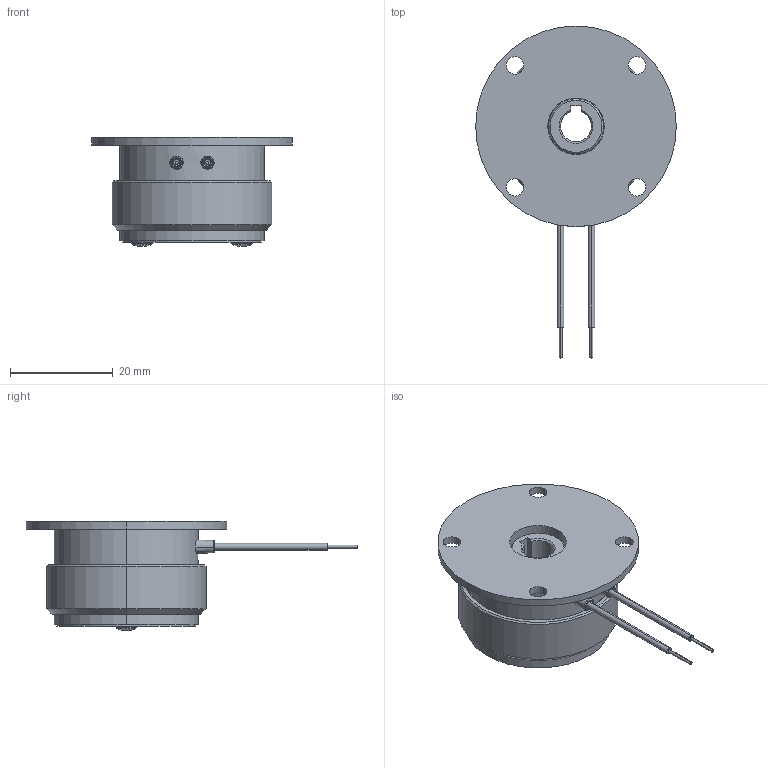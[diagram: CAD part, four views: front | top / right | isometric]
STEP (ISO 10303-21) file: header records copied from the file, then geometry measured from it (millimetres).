
FILE_DESCRIPTION (( 'STEP AP214' ), '1' );
FILE_NAME ('dr_bk_0103-110_mu.STEP', '2021-12-01T08:39:27', ( '' ), ( '' ), 'SwSTEP 2.0', 'SolidWorks 2019', '' );
FILE_SCHEMA (( 'AUTOMOTIVE_DESIGN' ));
Length unit declared in the file: millimetre
Products named in the file (8): 10068718_000_Einbaul„nge 1,35mm; 10068722_000; 10068720_000; 10069125_000; 10068721_000; dr_bk_0103-110_mu; 10069103_000; 10068719_000
Assembly tree (9 placements, depth 3):
  dr_bk_0103-110_mu
    10069103_000
    10069125_000
    10068719_000
      10068720_000
      10068721_000
      10068718_000_Einbaul„nge 1,35mm  x2
      10068722_000  x2
Bounding box: 39 x 64.5 x 21.2 mm (x, y, z)
Volume: 13268.8 mm3; surface area: 10199.9 mm2
Topology: 10 solids, 10 shells, 173 faces, 382 edges, 236 vertices
Faces by surface type: cylinder 87, cone 42, plane 28, torus 12, sphere 4
Entity records: 5667 total; most frequent: CARTESIAN_POINT 839, DIRECTION 834, ORIENTED_EDGE 652, AXIS2_PLACEMENT_3D 359, EDGE_CURVE 326, VERTEX_POINT 204, CIRCLE 198, EDGE_LOOP 192
